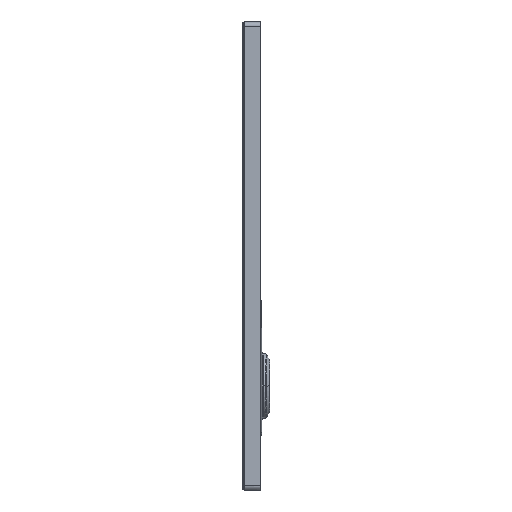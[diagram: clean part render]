
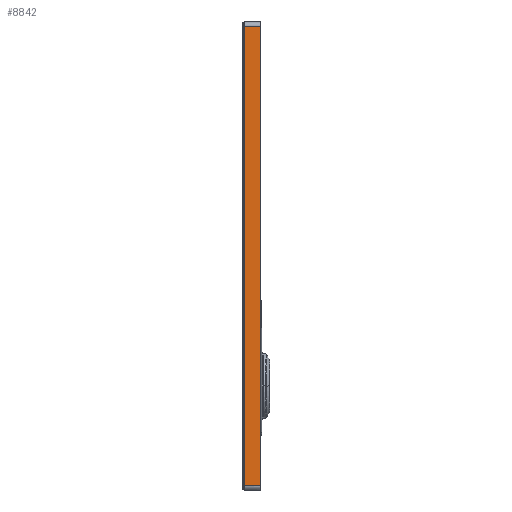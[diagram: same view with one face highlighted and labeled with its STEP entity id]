
A CAD part, left-side view. The second image highlights one B-rep face of the part: STEP entity #8842.
In plain terms, the highlighted planar face has unit normal (-1, 0, 0).
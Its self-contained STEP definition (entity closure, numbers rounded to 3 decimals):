
#2417=DIRECTION('',(0.,1.,0.));
#2418=VECTOR('',#2417,30.953);
#2419=CARTESIAN_POINT('',(-700.,-35.,-192.));
#2420=LINE('',#2419,#2418);
#2421=CARTESIAN_POINT('',(-700.,-4.047,-192.));
#2422=CARTESIAN_POINT('',(-700.,-4.071,
-188.396));
#2423=CARTESIAN_POINT('',(-700.,-4.125,
-181.188));
#2424=CARTESIAN_POINT('',(-700.,-4.214,
-170.72));
#2425=CARTESIAN_POINT('',(-700.,-4.314,
-159.577));
#2426=CARTESIAN_POINT('',(-700.,-4.411,
-148.322));
#2427=CARTESIAN_POINT('',(-700.,-4.498,-137.002));
#2428=CARTESIAN_POINT('',(-700.,-4.568,-125.734));
#2429=CARTESIAN_POINT('',(-700.,-4.618,-114.471));
#2430=CARTESIAN_POINT('',(-700.,-4.644,-103.19));
#2431=CARTESIAN_POINT('',(-700.,-4.648,-91.895));
#2432=CARTESIAN_POINT('',(-700.,-4.63,-80.613));
#2433=CARTESIAN_POINT('',(-700.,-4.596,-69.387));
#2434=CARTESIAN_POINT('',(-700.,-4.551,-58.201));
#2435=CARTESIAN_POINT('',(-700.,-4.502,-47.));
#2436=CARTESIAN_POINT('',(-700.,-4.452,-35.807));
#2437=CARTESIAN_POINT('',(-700.,-4.406,-24.635));
#2438=CARTESIAN_POINT('',(-700.,-4.365,-13.235));
#2439=CARTESIAN_POINT('',(-700.,-4.328,-1.194));
#2440=CARTESIAN_POINT('',(-700.,-4.297,11.928));
#2441=CARTESIAN_POINT('',(-700.,-4.272,26.429));
#2442=CARTESIAN_POINT('',(-700.,-4.253,42.31));
#2443=CARTESIAN_POINT('',(-700.,-4.241,59.521));
#2444=CARTESIAN_POINT('',(-700.,-4.236,78.122));
#2445=CARTESIAN_POINT('',(-700.,-4.236,98.268));
#2446=CARTESIAN_POINT('',(-700.,-4.24,120.09));
#2447=CARTESIAN_POINT('',(-700.,-4.248,143.679));
#2448=CARTESIAN_POINT('',(-700.,-4.257,169.21));
#2449=CARTESIAN_POINT('',(-700.,-4.266,196.91));
#2450=CARTESIAN_POINT('',(-700.,-4.273,226.82));
#2451=CARTESIAN_POINT('',(-700.,-4.275,259.506));
#2452=CARTESIAN_POINT('',(-700.,-4.271,294.975));
#2453=CARTESIAN_POINT('',(-700.,-4.263,330.198));
#2454=CARTESIAN_POINT('',(-700.,-4.255,361.999));
#2455=CARTESIAN_POINT('',(-700.,-4.248,390.13));
#2456=CARTESIAN_POINT('',(-700.,-4.244,415.407));
#2457=CARTESIAN_POINT('',(-700.,-4.243,438.268));
#2458=CARTESIAN_POINT('',(-700.,-4.245,458.963));
#2459=CARTESIAN_POINT('',(-700.,-4.248,477.763));
#2460=CARTESIAN_POINT('',(-700.,-4.253,494.907));
#2461=CARTESIAN_POINT('',(-700.,-4.259,510.584));
#2462=CARTESIAN_POINT('',(-700.,-4.266,524.967));
#2463=CARTESIAN_POINT('',(-700.,-4.274,538.198));
#2464=CARTESIAN_POINT('',(-700.,-4.284,550.358));
#2465=CARTESIAN_POINT('',(-700.,-4.296,561.503));
#2466=CARTESIAN_POINT('',(-700.,-4.31,571.69));
#2467=CARTESIAN_POINT('',(-700.,-4.326,580.956));
#2468=CARTESIAN_POINT('',(-700.,-4.344,589.281));
#2469=CARTESIAN_POINT('',(-700.,-4.364,596.649));
#2470=CARTESIAN_POINT('',(-700.,-4.385,603.183));
#2471=CARTESIAN_POINT('',(-700.,-4.407,609.132));
#2472=CARTESIAN_POINT('',(-700.,-4.432,614.774));
#2473=CARTESIAN_POINT('',(-700.,-4.458,620.362));
#2474=CARTESIAN_POINT('',(-700.,-4.486,625.977));
#2475=CARTESIAN_POINT('',(-700.,-4.513,631.586));
#2476=CARTESIAN_POINT('',(-700.,-4.536,637.194));
#2477=CARTESIAN_POINT('',(-700.,-4.55,642.818));
#2478=CARTESIAN_POINT('',(-700.,-4.552,648.476));
#2479=CARTESIAN_POINT('',(-700.,-4.536,654.159));
#2480=CARTESIAN_POINT('',(-700.,-4.502,
659.744));
#2481=CARTESIAN_POINT('',(-700.,-4.453,
665.246));
#2482=CARTESIAN_POINT('',(-700.,-4.386,
671.074));
#2483=CARTESIAN_POINT('',(-700.,-4.3,
677.474));
#2484=CARTESIAN_POINT('',(-700.,-4.201,
684.432));
#2485=CARTESIAN_POINT('',(-700.,-4.132,
689.418));
#2486=CARTESIAN_POINT('',(-700.,-4.099,692.));
#2488=DIRECTION('',(0.,1.,0.));
#2489=VECTOR('',#2488,30.901);
#2490=CARTESIAN_POINT('',(-700.,-35.,692.));
#2491=LINE('',#2490,#2489);
#2745=DIRECTION('',(0.,0.,1.));
#2746=VECTOR('',#2745,884.);
#2747=CARTESIAN_POINT('',(-700.,-35.,-192.));
#2748=LINE('',#2747,#2746);
#5956=CARTESIAN_POINT('',(-700.,-35.,-192.));
#5957=CARTESIAN_POINT('',(-700.,-35.,692.));
#5958=VERTEX_POINT('',#5956);
#5959=VERTEX_POINT('',#5957);
#5972=CARTESIAN_POINT('',(-700.,-4.047,-192.));
#5973=VERTEX_POINT('',#5972);
#5986=CARTESIAN_POINT('',(-700.,-4.099,692.));
#5987=VERTEX_POINT('',#5986);
#8829=CARTESIAN_POINT('',(-700.,0.,-200.));
#8830=DIRECTION('',(-1.,0.,0.));
#8831=DIRECTION('',(0.,0.,1.));
#8832=AXIS2_PLACEMENT_3D('',#8829,#8830,#8831);
#8833=PLANE('',#8832);
#8834=ORIENTED_EDGE('',*,*,#8820,.T.);
#8835=ORIENTED_EDGE('',*,*,#7752,.T.);
#8837=ORIENTED_EDGE('',*,*,#8836,.F.);
#8839=ORIENTED_EDGE('',*,*,#8838,.F.);
#8840=EDGE_LOOP('',(#8834,#8835,#8837,#8839));
#8841=FACE_OUTER_BOUND('',#8840,.F.);
#2487=B_SPLINE_CURVE_WITH_KNOTS('',3,(#2421,#2422,#2423,#2424,#2425,#2426,#2427,
#2428,#2429,#2430,#2431,#2432,#2433,#2434,#2435,#2436,#2437,#2438,#2439,#2440,
#2441,#2442,#2443,#2444,#2445,#2446,#2447,#2448,#2449,#2450,#2451,#2452,#2453,
#2454,#2455,#2456,#2457,#2458,#2459,#2460,#2461,#2462,#2463,#2464,#2465,#2466,
#2467,#2468,#2469,#2470,#2471,#2472,#2473,#2474,#2475,#2476,#2477,#2478,#2479,
#2480,#2481,#2482,#2483,#2484,#2485,#2486),.UNSPECIFIED.,.F.,.F.,(4,1,1,1,1,1,1,
1,1,1,1,1,1,1,1,1,1,1,1,1,1,1,1,1,1,1,1,1,1,1,1,1,1,1,1,1,1,1,1,1,1,1,1,1,1,1,1,
1,1,1,1,1,1,1,1,1,1,1,1,1,1,1,1,4),(0.,0.016,0.032,
0.048,0.063,0.079,0.095,
0.111,0.127,0.143,0.159,
0.175,0.19,0.206,0.222,
0.238,0.254,0.27,0.286,
0.302,0.317,0.333,0.349,
0.365,0.381,0.397,0.413,
0.429,0.444,0.46,0.476,
0.492,0.508,0.524,0.54,
0.556,0.571,0.587,0.603,
0.619,0.635,0.651,0.667,
0.683,0.698,0.714,0.73,
0.746,0.762,0.778,0.794,
0.81,0.825,0.841,0.857,
0.873,0.889,0.905,0.921,
0.937,0.952,0.968,0.984,1.),
.UNSPECIFIED.);
#7752=EDGE_CURVE('',#5973,#5987,#2487,.T.);
#8820=EDGE_CURVE('',#5958,#5973,#2420,.T.);
#8836=EDGE_CURVE('',#5959,#5987,#2491,.T.);
#8838=EDGE_CURVE('',#5958,#5959,#2748,.T.);
#8842=ADVANCED_FACE('',(#8841),#8833,.T.);
